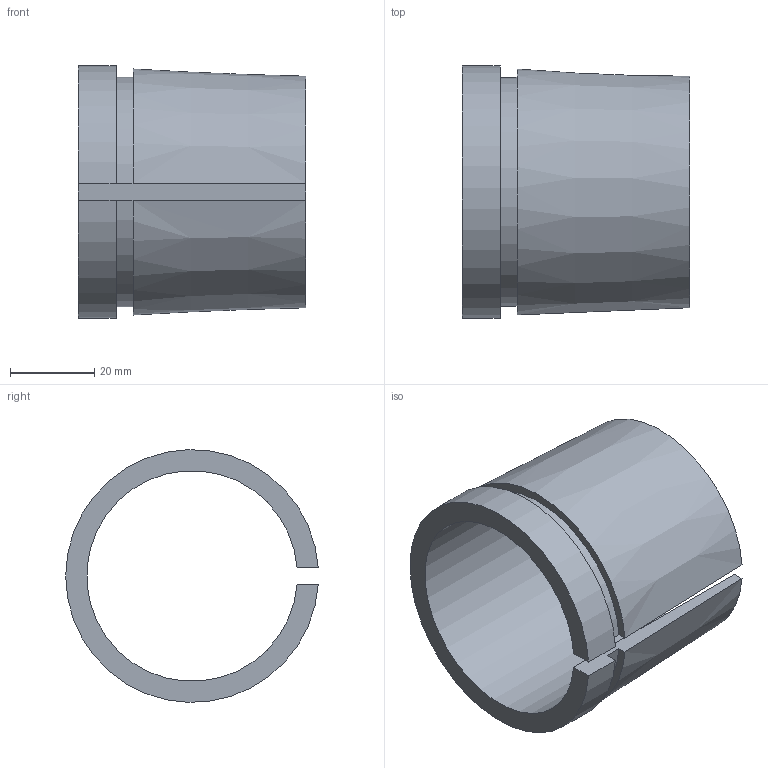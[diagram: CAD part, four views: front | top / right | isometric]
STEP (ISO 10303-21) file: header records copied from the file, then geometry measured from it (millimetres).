
FILE_DESCRIPTION(/* description */ (''),/* implementation_level */ '2;1');
FILE_NAME(/* name */ 'AH2311.stp',/* time_stamp */ '2024-07-23T13:25:44+02:00',/* author */ ('OUPIONTEKM'),/* organization */ (''),/* preprocessor_version */ 'ST-DEVELOPER v20',/* originating_system */ 'Autodesk Inventor 2025',/* authorisation */ '');
FILE_SCHEMA (('AUTOMOTIVE_DESIGN { 1 0 10303 214 3 1 1 }'));
Length unit declared in the file: millimetre
Products named in the file (1): AHX2311
Bounding box: 54 x 59.93 x 59.97 mm (x, y, z)
Volume: 31540.3 mm3; surface area: 20207.8 mm2
Topology: 1 solids, 1 shells, 10 faces, 24 edges, 16 vertices
Faces by surface type: plane 6, cylinder 3, cone 1
Entity records: 337 total; most frequent: CARTESIAN_POINT 55, DIRECTION 52, ORIENTED_EDGE 48, EDGE_CURVE 24, AXIS2_PLACEMENT_3D 19, VERTEX_POINT 16, LINE 14, VECTOR 14
